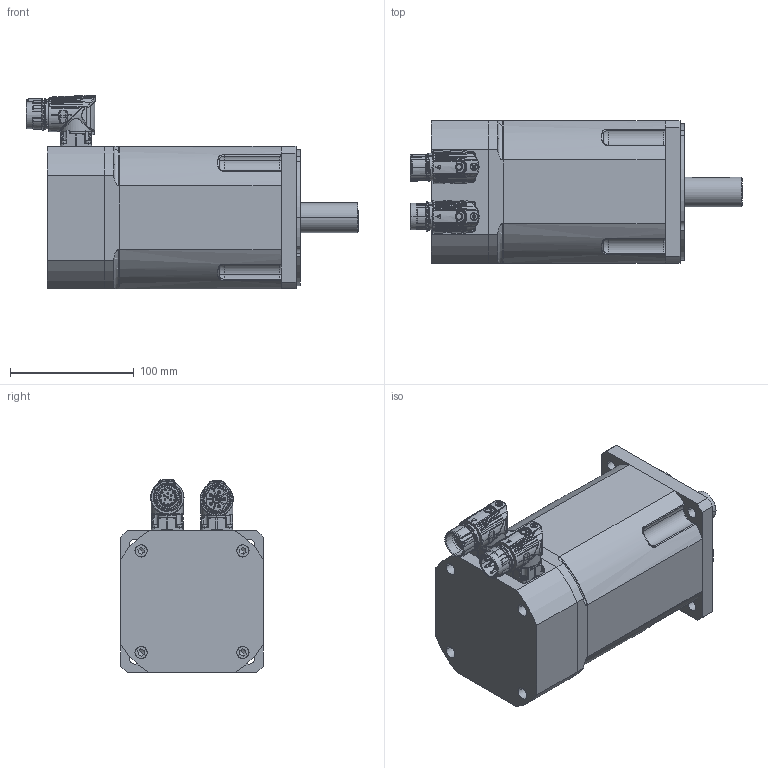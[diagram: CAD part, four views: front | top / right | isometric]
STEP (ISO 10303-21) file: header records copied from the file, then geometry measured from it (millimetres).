
FILE_DESCRIPTION(('CATIA V5 STEP Exchange'),'2;1');
FILE_NAME('C:\Documents and Settings\max\Documenti\sangallimotori\3d step\tg4\motore_DSM5_42.stp','2010-12-12T18:22:28+00:00',('none'),('none'),'CATIA Version 5 Release 10 (IN-8)','CATIA V5 STEP AP203',' none');
FILE_SCHEMA(('CONFIG_CONTROL_DESIGN'));
Assembly tree (27 placements, depth 0):
Bounding box: 267.81 x 115 x 156.43 mm (x, y, z)
Volume: 2405222 mm3; surface area: 220836.2 mm2
Topology: 23 solids, 28 shells, 4113 faces, 13945 edges, 9848 vertices
Faces by surface type: cylinder 1492, bspline 1326, plane 593, torus 360, cone 233, sphere 109
Entity records: 254620 total; most frequent: CARTESIAN_POINT 164650, ORIENTED_EDGE 25470, EDGE_CURVE 12792, VERTEX_POINT 9198, DIRECTION 8767, B_SPLINE_CURVE_WITH_KNOTS 7914, AXIS2_PLACEMENT_3D 4390, EDGE_LOOP 3819
